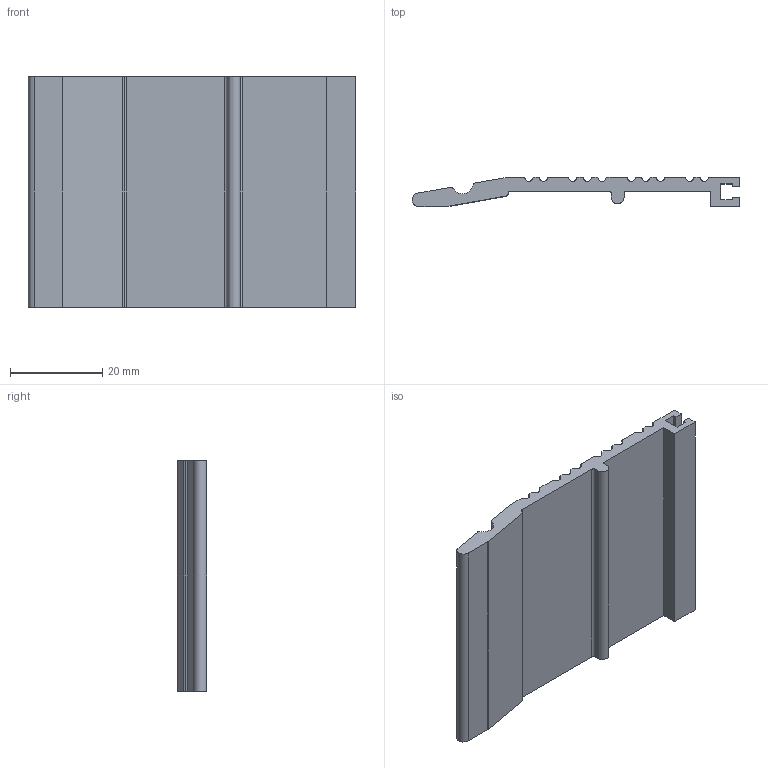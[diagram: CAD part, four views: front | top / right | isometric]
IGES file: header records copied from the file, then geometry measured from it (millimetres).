
Global section: file name: No Iges File Name specified; native system: Autodesk Inventor 2012; preprocessor: AutoDesk Inventor Iges Exporter R2012; author: anna.b; date: 20170316.095932; units: millimetre
Bounding box: 71.2 x 6.35 x 50 mm (x, y, z)
Volume: 11324.3 mm3; surface area: 9381.1 mm2
Topology: 1 solids, 1 shells, 73 faces, 213 edges, 142 vertices
Faces by surface type: plane 33, cylinder 26, revolution 14
